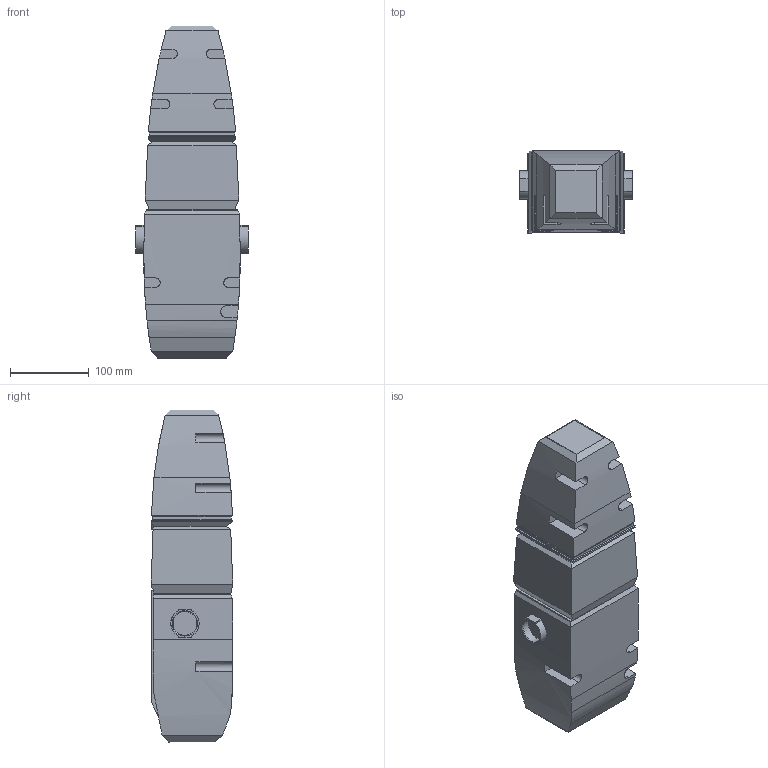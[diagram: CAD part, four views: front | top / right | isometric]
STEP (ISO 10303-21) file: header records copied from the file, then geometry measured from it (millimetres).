
FILE_DESCRIPTION(/* description */ (''),/* implementation_level */ '2;1');
FILE_NAME(/* name */ '\\DATASERVER\data\Flamco\3D-Modellen\Inventor\VacuStream\17050_vacustream.stp',/* time_stamp */ '2023-09-15T09:40:40+02:00',/* author */ ('kasius'),/* organization */ (''),/* preprocessor_version */ 'ST-DEVELOPER v17',/* originating_system */ 'Autodesk Inventor 2018',/* authorisation */ '');
FILE_SCHEMA (('AUTOMOTIVE_DESIGN { 1 0 10303 214 3 1 1 }'));
Length unit declared in the file: millimetre
Products named in the file (1): 17050_vacustream
Bounding box: 143 x 104.19 x 422.29 mm (x, y, z)
Volume: 4371913.4 mm3; surface area: 203273.7 mm2
Topology: 1 solids, 1 shells, 164 faces, 465 edges, 308 vertices
Faces by surface type: plane 134, cylinder 26, bspline 2, cone 2
Full cylindrical faces by diameter (mm): 30.29 x2
Entity records: 5576 total; most frequent: CARTESIAN_POINT 1238, ORIENTED_EDGE 930, DIRECTION 819, EDGE_CURVE 465, LINE 365, VECTOR 365, VERTEX_POINT 308, AXIS2_PLACEMENT_3D 227
